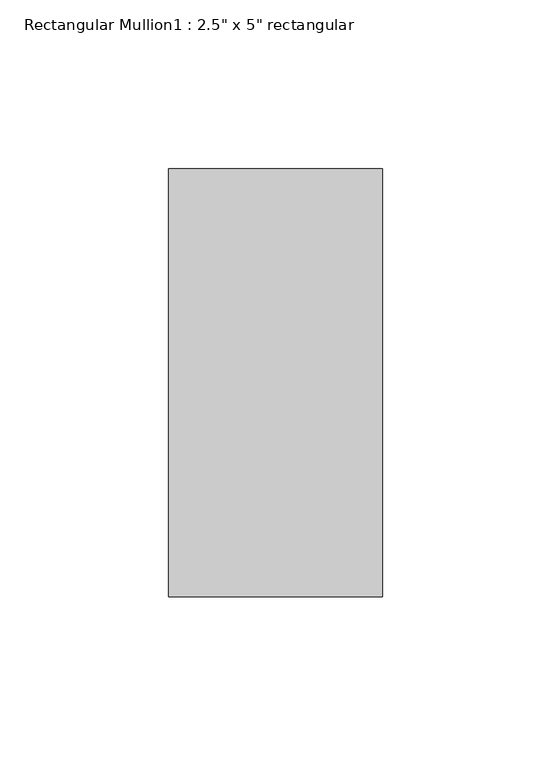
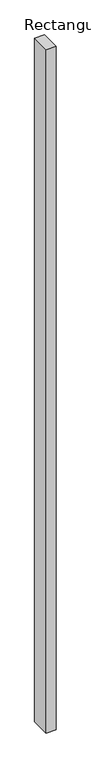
"""IFC4 building model written with IfcOpenShell, lengths in millimetres: member geometry."""

import ifcopenshell
import ifcopenshell.guid

model = None  # the IFC model being written
_history = None  # IfcOwnerHistory: only IFC2X3 demands one
_inside = {}  # id of a spatial element -> (the spatial element, [elements in it])
_under = {}  # id of a project, library or spatial element -> (it, [spatial elements below it])
_declared = {}  # id of a project -> (the project, [libraries it declares])
_typed = {}  # id of a type object -> (the type object, [elements of that type])
_made_of = {}  # id of a material, layer set ... -> (it, [elements and type objects made of it])


def new_model(schema):
    """Start an empty IFC model of exactly this schema.

    Asked for "IFC4X3", IfcOpenShell would pick the latest addendum, in which some entities
    have other attributes; the version numbers below select the first issue.
    IFC2X3 requires an IfcOwnerHistory on every rooted entity: one is made here for all.
    """
    global model, _history
    if schema == "IFC4X3":
        model = ifcopenshell.file(schema_version=(4, 3, 0, 0))
    else:
        model = ifcopenshell.file(schema=schema)
    _inside.clear()
    _under.clear()
    _declared.clear()
    _typed.clear()
    _made_of.clear()
    _history = None
    if model.schema == "IFC2X3":
        org = make("IfcOrganization", Name="unknown")
        user = make(
            "IfcPersonAndOrganization",
            ThePerson=make("IfcPerson", FamilyName="unknown"),
            TheOrganization=org,
        )
        app = make(
            "IfcApplication",
            ApplicationDeveloper=org,
            Version="unknown",
            ApplicationFullName="unknown",
            ApplicationIdentifier="unknown",
        )
        _history = make(
            "IfcOwnerHistory",
            OwningUser=user,
            OwningApplication=app,
            ChangeAction="ADDED",
            CreationDate=0,
        )
    return model


def make(cls, **values):
    """One entity of the class cls with the attributes given. An attribute that is None is left unset."""
    return model.create_entity(
        cls, **{name: value for name, value in values.items() if value is not None}
    )


def rooted(cls, **values):
    """An entity with a GlobalId (a new one), such as an element, a storey or a relation."""
    return make(cls, GlobalId=ifcopenshell.guid.new(), OwnerHistory=_history, **values)


def si_unit(unit_type, name, prefix=None):
    """IfcSIUnit, for example si_unit("LENGTHUNIT", "METRE", prefix="MILLI")."""
    return make("IfcSIUnit", UnitType=unit_type, Prefix=prefix, Name=name)


def assignment(units):
    """IfcUnitAssignment: the units of a project."""
    return None if units is None else make("IfcUnitAssignment", Units=units)


def point(xyz):
    """IfcCartesianPoint."""
    return None if xyz is None else make("IfcCartesianPoint", Coordinates=xyz)


def direction(xyz):
    """IfcDirection."""
    return None if xyz is None else make("IfcDirection", DirectionRatios=xyz)


def frame(location, z_axis=None, x_axis=None):
    """IfcAxis2Placement3D, a coordinate frame: its origin and axes. An axis left out is left unset."""
    return make(
        "IfcAxis2Placement3D",
        Location=point(location),
        Axis=direction(z_axis),
        RefDirection=direction(x_axis),
    )


def origin():
    """The frame at (0, 0, 0) with its axes left unset."""
    return frame((0.0, 0.0, 0.0))


def place(relative_to, where):
    """IfcLocalPlacement: puts the frame where relative to a parent placement (None: the world)."""
    return make(
        "IfcLocalPlacement", PlacementRelTo=relative_to, RelativePlacement=where
    )


def context(
    kind, dimensions, precision=None, world=None, true_north=None, identifier=None
):
    """IfcGeometricRepresentationContext, for example the 3D "Model" context."""
    return make(
        "IfcGeometricRepresentationContext",
        ContextIdentifier=identifier,
        ContextType=kind,
        CoordinateSpaceDimension=dimensions,
        Precision=precision,
        WorldCoordinateSystem=world,
        TrueNorth=true_north,
    )


def project(units=None, contexts=None):
    """IfcProject with its units and contexts."""
    return rooted(
        "IfcProject",
        Name="project",
        RepresentationContexts=contexts,
        UnitsInContext=assignment(units),
    )


def spatial(cls, under=None, at=None, **own):
    """A site, building, storey or space (cls), placed at a placement, below another one or the project."""
    s = rooted(cls, ObjectPlacement=at, **own)
    if under is not None:
        _under.setdefault(under.id(), (under, []))[1].append(s)
    return s


def polyline(points):
    """IfcPolyline through the points."""
    return make("IfcPolyline", Points=[point(p) for p in points])


def outline(outer, holes=None, kind="AREA"):
    """IfcArbitraryClosedProfileDef: a profile drawn as a closed curve; with holes, ...WithVoids."""
    if holes is None:
        return make("IfcArbitraryClosedProfileDef", ProfileType=kind, OuterCurve=outer)
    return make(
        "IfcArbitraryProfileDefWithVoids",
        ProfileType=kind,
        OuterCurve=outer,
        InnerCurves=holes,
    )


def extrude(swept, where, along, depth):
    """IfcExtrudedAreaSolid: the profile swept, set in the frame where, extruded along a direction by depth."""
    return make(
        "IfcExtrudedAreaSolid",
        SweptArea=swept,
        Position=where,
        ExtrudedDirection=direction(along),
        Depth=depth,
    )


def shape(context_of_items, identifier, shape_type, items):
    """IfcShapeRepresentation: the items that make up one representation, for example the "Body"."""
    return make(
        "IfcShapeRepresentation",
        ContextOfItems=context_of_items,
        RepresentationIdentifier=identifier,
        RepresentationType=shape_type,
        Items=items,
    )


def source(mapping_origin, context_of_items, identifier, shape_type, items):
    """IfcRepresentationMap: a shape defined once, which mapped items show again and again."""
    return make(
        "IfcRepresentationMap",
        MappingOrigin=mapping_origin,
        MappedRepresentation=shape(context_of_items, identifier, shape_type, items),
    )


def transform(
    local_origin,
    x_axis=None,
    y_axis=None,
    z_axis=None,
    scale=None,
    scale2=None,
    scale3=None,
    uniform=True,
):
    """IfcCartesianTransformationOperator3D, or its non-uniform kind. x_axis, y_axis, z_axis: its Axis1, 2, 3."""
    if uniform:
        return make(
            "IfcCartesianTransformationOperator3D",
            Axis1=direction(x_axis),
            Axis2=direction(y_axis),
            LocalOrigin=point(local_origin),
            Scale=scale,
            Axis3=direction(z_axis),
        )
    return make(
        "IfcCartesianTransformationOperator3DnonUniform",
        Axis1=direction(x_axis),
        Axis2=direction(y_axis),
        LocalOrigin=point(local_origin),
        Scale=scale,
        Axis3=direction(z_axis),
        Scale2=scale2,
        Scale3=scale3,
    )


def mapped(mapping_source, mapping_target):
    """IfcMappedItem: shows the shape of a source again, moved by a transform."""
    return make(
        "IfcMappedItem", MappingSource=mapping_source, MappingTarget=mapping_target
    )


def made_of(thing, what):
    """Note that an element or type object is made of a material, layer set ...; save() writes the relation."""
    if what is not None:
        _made_of.setdefault(what.id(), (what, []))[1].append(thing)
    return thing


def element(
    cls,
    number,
    at=None,
    inside=None,
    cuts=None,
    type_object=None,
    material=None,
    context=None,
    identifier="Body",
    shape_type=None,
    held_by="IfcProductDefinitionShape",
    body=None,
    shapes=None,
    **own,
):
    """One element of the class cls, such as IfcWall. Its Tag is "e" and its number.

    at: its placement. inside: the storey or other place that contains it. cuts: it is an
    opening in that element (IfcRelVoidsElement). A single representation is given by context,
    identifier, shape_type and body (its items); several are given by shapes. held_by: the class
    of the entity that holds the representations. save() writes the other relations.
    """
    e = rooted(cls, Tag="e%d" % number, ObjectPlacement=at, **own)
    if body is not None:
        shapes = [shape(context, identifier, shape_type, body)]
    if shapes is not None:
        e.Representation = make(held_by, Representations=shapes)
    if inside is not None:
        _inside.setdefault(inside.id(), (inside, []))[1].append(e)
    if cuts is not None:
        rooted(
            "IfcRelVoidsElement", RelatingBuildingElement=cuts, RelatedOpeningElement=e
        )
    if type_object is not None:
        _typed.setdefault(type_object.id(), (type_object, []))[1].append(e)
    return made_of(e, material)


def aggregate(whole, parts):
    """IfcRelAggregates: a whole, such as a stair, and the parts it consists of."""
    return rooted("IfcRelAggregates", RelatingObject=whole, RelatedObjects=parts)


def save(model, path):
    """Write the relations noted so far, then the file.

    IfcRelAggregates (storeys below a building ...), IfcRelContainedInSpatialStructure (elements
    in a storey), IfcRelDefinesByType, IfcRelAssociatesMaterial and IfcRelDeclares: one each for
    every whole, place, type object, material and project.
    """
    for whole, parts in _under.values():
        aggregate(whole, parts)
    for where, things in _inside.values():
        rooted(
            "IfcRelContainedInSpatialStructure",
            RelatedElements=things,
            RelatingStructure=where,
        )
    for kind, things in _typed.values():
        rooted("IfcRelDefinesByType", RelatedObjects=things, RelatingType=kind)
    for what, things in _made_of.values():
        rooted("IfcRelAssociatesMaterial", RelatedObjects=things, RelatingMaterial=what)
    for by, libraries in _declared.values():
        rooted("IfcRelDeclares", RelatingContext=by, RelatedDefinitions=libraries)
    model.write(path)


def member_5d07894b(model_context):
    return source(origin(), model_context, "Body", "SweptSolid", [
        extrude(outline(polyline([(31.75, 63.5), (31.75, -63.5), (-31.75, -63.5), (-31.75, 63.5), (31.75, 63.5)])), frame((0.0, 0.0, -4629.15), z_axis=(0.0, 0.0, 1.0), x_axis=(1.0, 0.0, 0.0)), (0.0, 0.0, 1.0), 4629.15),
    ])


if __name__ == "__main__":
    model = new_model("IFC4")
    model_context = context("Model", 3, world=origin())
    ifc_project = project(units=[si_unit("LENGTHUNIT", "METRE", prefix="MILLI")], contexts=[model_context])
    site = spatial("IfcSite", under=ifc_project)
    building = spatial("IfcBuilding", under=site)
    placement = place(None, origin())
    member_shape = member_5d07894b(model_context)
    element("IfcMember", 1, ObjectType="Rectangular Mullion1 : 2.5\" x 5\" rectangular", at=placement, inside=building, context=model_context, shape_type="MappedRepresentation", body=[
        mapped(member_shape, transform((0.0, 0.0, 0.0), x_axis=(1.0, 0.0, 0.0), y_axis=(0.0, 1.0, 0.0), z_axis=(0.0, 0.0, 1.0))),
    ])
    save(model, "model.ifc")
